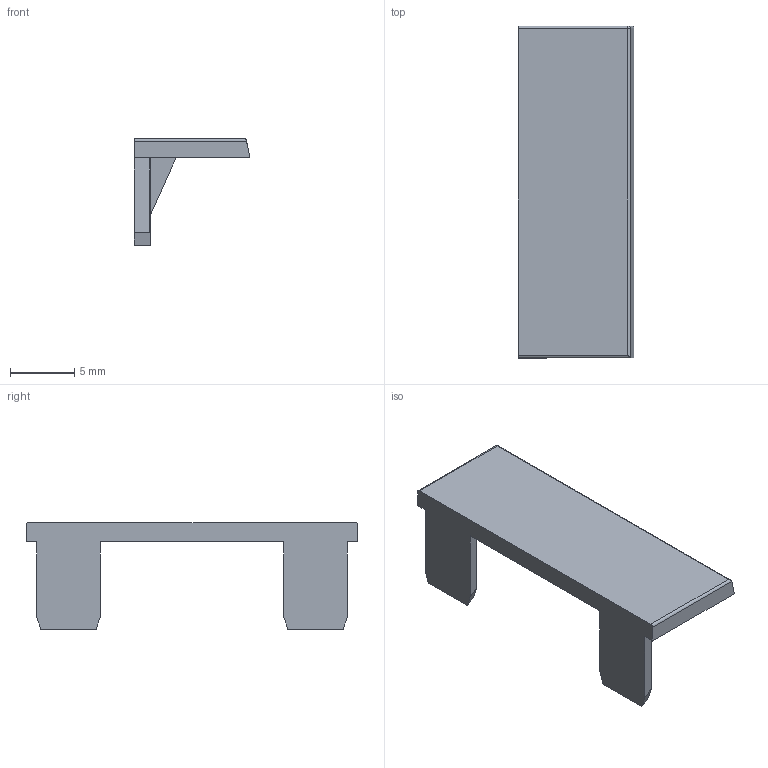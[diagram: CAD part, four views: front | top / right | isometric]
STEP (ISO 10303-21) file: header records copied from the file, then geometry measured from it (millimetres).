
FILE_DESCRIPTION (( 'STEP AP214' ), '1' );
FILE_NAME ('SK4P梓暮齪.STEP', '2018-05-10T07:23:18', ( 'shenler' ), ( 'Microsoft' ), 'SwSTEP 2.0', 'SolidWorks 2017', '' );
FILE_SCHEMA (( 'AUTOMOTIVE_DESIGN' ));
Length unit declared in the file: millimetre
Products named in the file (1): SK4P梓暮齪
Bounding box: 9 x 25.8 x 8.3 mm (x, y, z)
Volume: 429.4 mm3; surface area: 730.4 mm2
Topology: 1 solids, 1 shells, 94 faces, 256 edges, 169 vertices
Faces by surface type: plane 66, bspline 19, cylinder 8, sphere 1
Entity records: 3968 total; most frequent: CARTESIAN_POINT 1703, ORIENTED_EDGE 510, DIRECTION 371, EDGE_CURVE 255, VECTOR 201, LINE 201, VERTEX_POINT 169, EDGE_LOOP 100
